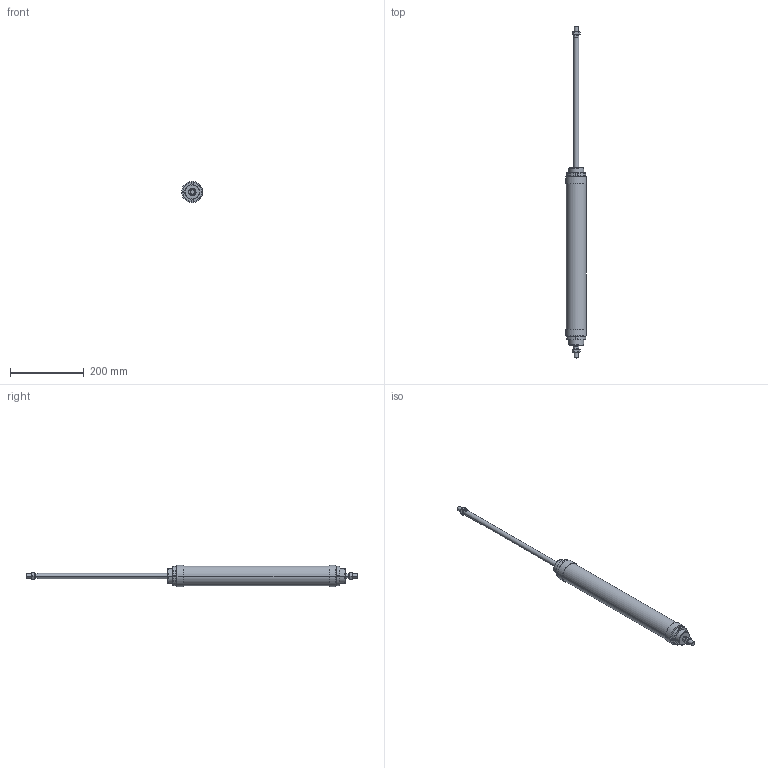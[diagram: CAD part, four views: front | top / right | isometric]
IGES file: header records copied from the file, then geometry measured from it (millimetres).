
Global section: file name: No Iges File Name specified; native system: AutoDesk Inventor R6.0; preprocessor: AutoDesk Inventor Iges Exporter R6.0; author: No Author specified; organization: No Organization specified; date: 20030403.073055; units: millimetre
Bounding box: 56.6 x 902 x 57.85 mm (x, y, z)
Volume: 1143076.9 mm3; surface area: 158139.6 mm2
Topology: 6 solids, 6 shells, 182 faces, 424 edges, 264 vertices
Faces by surface type: plane 66, cone 52, bspline 30, cylinder 28, revolution 6
